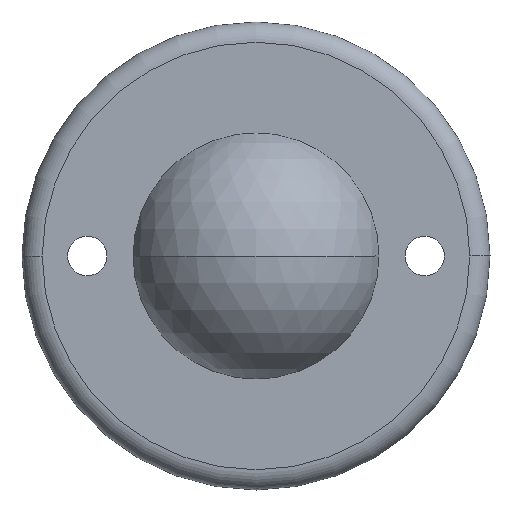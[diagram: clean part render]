
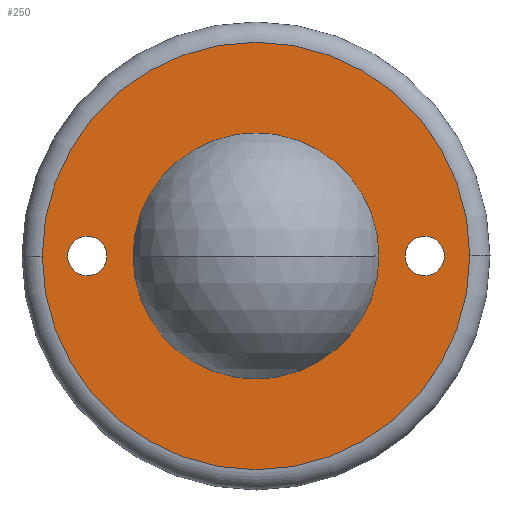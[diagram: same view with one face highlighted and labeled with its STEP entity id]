
A CAD part, front view. The second image highlights one B-rep face of the part: STEP entity #250.
In plain terms, the highlighted planar face has unit normal (0, -1, 0).
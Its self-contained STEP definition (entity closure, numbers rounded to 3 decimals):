
#5 = CARTESIAN_POINT ( 'NONE',  ( 0., 0., 0. ) ) ;
#11 = DIRECTION ( 'NONE',  ( 1., 0., 0. ) ) ;
#19 = CIRCLE ( 'NONE', #126, 1.75 ) ;
#33 = CARTESIAN_POINT ( 'NONE',  ( -19., 0., 0. ) ) ;
#36 = VERTEX_POINT ( 'NONE', #33 ) ;
#42 = CARTESIAN_POINT ( 'NONE',  ( -10.925, 0., 0. ) ) ;
#44 = CARTESIAN_POINT ( 'NONE',  ( 16.75, 0., 0. ) ) ;
#47 = DIRECTION ( 'NONE',  ( 0., -1., 0. ) ) ;
#48 = EDGE_CURVE ( 'NONE', #36, #310, #536, .T. ) ;
#52 = ORIENTED_EDGE ( 'NONE', *, *, #505, .T. ) ;
#60 = DIRECTION ( 'NONE',  ( 0., 1., 0. ) ) ;
#78 = FACE_BOUND ( 'NONE', #212, .T. ) ;
#86 = CIRCLE ( 'NONE', #561, 1.75 ) ;
#95 = AXIS2_PLACEMENT_3D ( 'NONE', #264, #47, #11 ) ;
#97 = DIRECTION ( 'NONE',  ( 1., 0., 0. ) ) ;
#101 = CARTESIAN_POINT ( 'NONE',  ( 15., 0., 0. ) ) ;
#111 = AXIS2_PLACEMENT_3D ( 'NONE', #387, #60, #142 ) ;
#115 = EDGE_LOOP ( 'NONE', ( #263, #52 ) ) ;
#126 = AXIS2_PLACEMENT_3D ( 'NONE', #464, #168, #249 ) ;
#127 = DIRECTION ( 'NONE',  ( 1., 0., 0. ) ) ;
#129 = ORIENTED_EDGE ( 'NONE', *, *, #491, .F. ) ;
#132 = CARTESIAN_POINT ( 'NONE',  ( -13.25, 0., 0. ) ) ;
#133 = ORIENTED_EDGE ( 'NONE', *, *, #566, .F. ) ;
#142 = DIRECTION ( 'NONE',  ( -1., 0., 0. ) ) ;
#152 = CARTESIAN_POINT ( 'NONE',  ( 10.925, 0., 0. ) ) ;
#157 = AXIS2_PLACEMENT_3D ( 'NONE', #42, #377, #127 ) ;
#161 = CIRCLE ( 'NONE', #259, 10.925 ) ;
#168 = DIRECTION ( 'NONE',  ( 0., 1., 0. ) ) ;
#170 = VERTEX_POINT ( 'NONE', #462 ) ;
#178 = CARTESIAN_POINT ( 'NONE',  ( -15., 0., 0. ) ) ;
#187 = ORIENTED_EDGE ( 'NONE', *, *, #346, .T. ) ;
#192 = ORIENTED_EDGE ( 'NONE', *, *, #226, .T. ) ;
#193 = CIRCLE ( 'NONE', #95, 1.75 ) ;
#200 = AXIS2_PLACEMENT_3D ( 'NONE', #5, #298, #565 ) ;
#205 = VERTEX_POINT ( 'NONE', #44 ) ;
#212 = EDGE_LOOP ( 'NONE', ( #187, #192 ) ) ;
#213 = FACE_OUTER_BOUND ( 'NONE', #448, .T. ) ;
#226 = EDGE_CURVE ( 'NONE', #205, #321, #19, .T. ) ;
#232 = DIRECTION ( 'NONE',  ( 0., 1., 0. ) ) ;
#234 = FACE_BOUND ( 'NONE', #115, .T. ) ;
#235 = VERTEX_POINT ( 'NONE', #132 ) ;
#240 = DIRECTION ( 'NONE',  ( 0., 1., 0. ) ) ;
#241 = CIRCLE ( 'NONE', #542, 1.75 ) ;
#249 = DIRECTION ( 'NONE',  ( 1., 0., 0. ) ) ;
#250 = ADVANCED_FACE ( 'NONE', ( #78, #398, #234, #213 ), #374, .T. ) ;
#259 = AXIS2_PLACEMENT_3D ( 'NONE', #396, #232, #477 ) ;
#263 = ORIENTED_EDGE ( 'NONE', *, *, #326, .T. ) ;
#264 = CARTESIAN_POINT ( 'NONE',  ( -15., 0., 0. ) ) ;
#298 = DIRECTION ( 'NONE',  ( 0., 1., 0. ) ) ;
#310 = VERTEX_POINT ( 'NONE', #471 ) ;
#316 = EDGE_LOOP ( 'NONE', ( #129, #371 ) ) ;
#321 = VERTEX_POINT ( 'NONE', #482 ) ;
#323 = AXIS2_PLACEMENT_3D ( 'NONE', #418, #240, #411 ) ;
#326 = EDGE_CURVE ( 'NONE', #348, #461, #161, .T. ) ;
#346 = EDGE_CURVE ( 'NONE', #321, #205, #241, .T. ) ;
#348 = VERTEX_POINT ( 'NONE', #527 ) ;
#353 = CIRCLE ( 'NONE', #111, 19. ) ;
#361 = EDGE_CURVE ( 'NONE', #235, #170, #193, .T. ) ;
#371 = ORIENTED_EDGE ( 'NONE', *, *, #361, .F. ) ;
#374 = PLANE ( 'NONE',  #157 ) ;
#377 = DIRECTION ( 'NONE',  ( 0., -1., 0. ) ) ;
#385 = DIRECTION ( 'NONE',  ( 0., 1., 0. ) ) ;
#387 = CARTESIAN_POINT ( 'NONE',  ( 0., 0., 0. ) ) ;
#396 = CARTESIAN_POINT ( 'NONE',  ( 0., 0., 0. ) ) ;
#397 = ORIENTED_EDGE ( 'NONE', *, *, #48, .F. ) ;
#398 = FACE_BOUND ( 'NONE', #316, .T. ) ;
#411 = DIRECTION ( 'NONE',  ( -1., 0., 0. ) ) ;
#418 = CARTESIAN_POINT ( 'NONE',  ( 0., 0., 0. ) ) ;
#430 = DIRECTION ( 'NONE',  ( 1., 0., 0. ) ) ;
#448 = EDGE_LOOP ( 'NONE', ( #397, #133 ) ) ;
#461 = VERTEX_POINT ( 'NONE', #152 ) ;
#462 = CARTESIAN_POINT ( 'NONE',  ( -16.75, 0., 0. ) ) ;
#464 = CARTESIAN_POINT ( 'NONE',  ( 15., 0., 0. ) ) ;
#471 = CARTESIAN_POINT ( 'NONE',  ( 19., 0., 0. ) ) ;
#474 = DIRECTION ( 'NONE',  ( 0., -1., 0. ) ) ;
#477 = DIRECTION ( 'NONE',  ( -1., 0., 0. ) ) ;
#482 = CARTESIAN_POINT ( 'NONE',  ( 13.25, 0., 0. ) ) ;
#491 = EDGE_CURVE ( 'NONE', #170, #235, #86, .T. ) ;
#492 = CIRCLE ( 'NONE', #200, 10.925 ) ;
#505 = EDGE_CURVE ( 'NONE', #461, #348, #492, .T. ) ;
#527 = CARTESIAN_POINT ( 'NONE',  ( -10.925, 0., 0. ) ) ;
#536 = CIRCLE ( 'NONE', #323, 19. ) ;
#542 = AXIS2_PLACEMENT_3D ( 'NONE', #101, #385, #430 ) ;
#561 = AXIS2_PLACEMENT_3D ( 'NONE', #178, #474, #97 ) ;
#565 = DIRECTION ( 'NONE',  ( -1., 0., 0. ) ) ;
#566 = EDGE_CURVE ( 'NONE', #310, #36, #353, .T. ) ;
